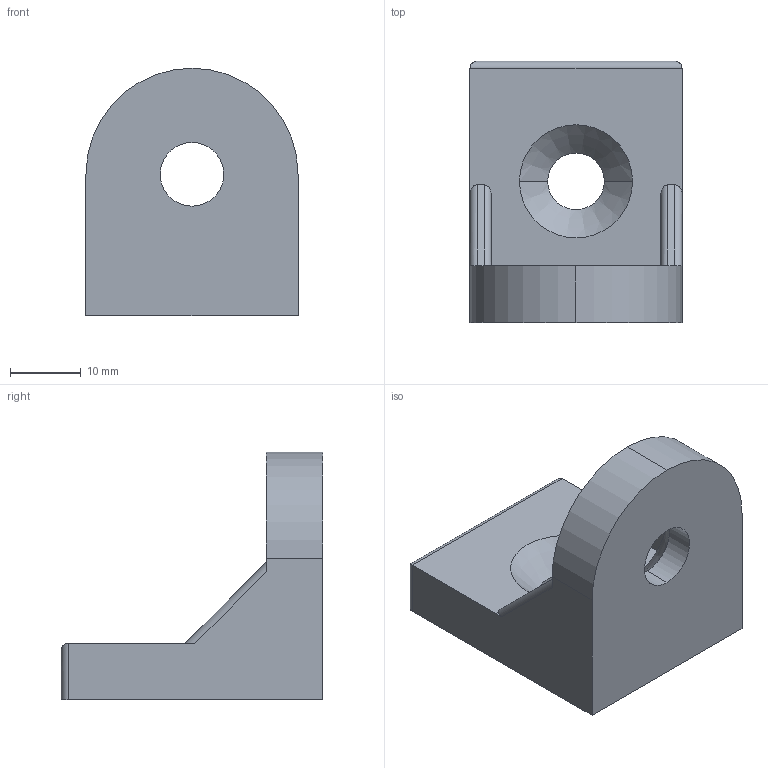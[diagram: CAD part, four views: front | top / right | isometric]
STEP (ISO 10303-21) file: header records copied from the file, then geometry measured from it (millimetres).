
FILE_DESCRIPTION (( 'STEP AP203' ), '1' );
FILE_NAME ('2016.STEP', '2016-04-07T08:46:22', ( '' ), ( '' ), 'SwSTEP 2.0', 'SolidWorks 2014', '' );
FILE_SCHEMA (( 'CONFIG_CONTROL_DESIGN' ));
Length unit declared in the file: millimetre
Products named in the file (1): 2016
Bounding box: 30 x 37 x 35 mm (x, y, z)
Volume: 13488.6 mm3; surface area: 5341.4 mm2
Topology: 1 solids, 1 shells, 28 faces, 72 edges, 46 vertices
Faces by surface type: cylinder 13, plane 11, cone 4
Entity records: 931 total; most frequent: CARTESIAN_POINT 177, ORIENTED_EDGE 144, DIRECTION 138, EDGE_CURVE 72, AXIS2_PLACEMENT_3D 47, VERTEX_POINT 46, LINE 44, VECTOR 44
